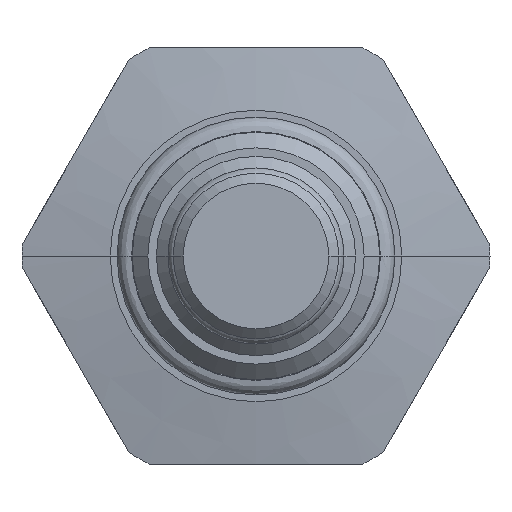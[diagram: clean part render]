
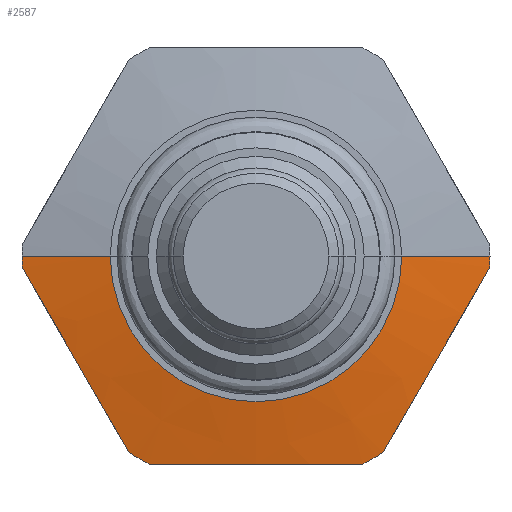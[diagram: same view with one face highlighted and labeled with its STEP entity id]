
A CAD part, front view. The second image highlights one B-rep face of the part: STEP entity #2587.
In plain terms, the highlighted conical face has half-angle 80 degrees and reference radius 14.478 mm.
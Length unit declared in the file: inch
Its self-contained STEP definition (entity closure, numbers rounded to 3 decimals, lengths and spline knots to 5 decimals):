
#387=CARTESIAN_POINT('',(0.32075,0.07663,-0.625));
#388=CARTESIAN_POINT('',(0.30718,0.07554,-0.625));
#389=CARTESIAN_POINT('',(0.28016,0.07347,-0.625));
#390=CARTESIAN_POINT('',(0.2401,0.07075,-0.625));
#391=CARTESIAN_POINT('',(0.20022,0.06842,-0.625));
#392=CARTESIAN_POINT('',(0.16037,0.06647,-0.625));
#393=CARTESIAN_POINT('',(0.12045,0.06492,-0.625));
#394=CARTESIAN_POINT('',(0.08041,0.0638,-0.625));
#395=CARTESIAN_POINT('',(0.04024,0.06312,-0.625));
#396=CARTESIAN_POINT('',(0.,0.06289,-0.625));
#397=CARTESIAN_POINT('',(-0.04024,0.06312,-0.625));
#398=CARTESIAN_POINT('',(-0.08041,0.0638,-0.625));
#399=CARTESIAN_POINT('',(-0.12045,0.06492,-0.625));
#400=CARTESIAN_POINT('',(-0.16037,0.06647,-0.625));
#401=CARTESIAN_POINT('',(-0.20022,0.06842,-0.625));
#402=CARTESIAN_POINT('',(-0.2401,0.07075,-0.625));
#403=CARTESIAN_POINT('',(-0.28016,0.07347,-0.625));
#404=CARTESIAN_POINT('',(-0.30718,0.07554,-0.625));
#405=CARTESIAN_POINT('',(-0.32075,0.07663,-0.625));
#425=CARTESIAN_POINT('',(0.,0.07663,0.));
#426=DIRECTION('',(0.,1.,0.));
#427=DIRECTION('',(-0.457,0.,-0.89));
#428=AXIS2_PLACEMENT_3D('',#425,#426,#427);
#430=CARTESIAN_POINT('',(0.,0.07663,0.));
#431=DIRECTION('',(0.,1.,0.));
#432=DIRECTION('',(-0.999,0.,-0.049));
#433=AXIS2_PLACEMENT_3D('',#430,#431,#432);
#435=CARTESIAN_POINT('',(0.,0.07663,0.));
#436=DIRECTION('',(0.,1.,0.));
#437=DIRECTION('',(1.,0.,0.));
#438=AXIS2_PLACEMENT_3D('',#435,#436,#437);
#440=CARTESIAN_POINT('',(0.,0.07663,0.));
#441=DIRECTION('',(0.,1.,0.));
#442=DIRECTION('',(0.542,0.,-0.84));
#443=AXIS2_PLACEMENT_3D('',#440,#441,#442);
#467=CARTESIAN_POINT('',(-0.38089,0.07663,
-0.59028));
#468=CARTESIAN_POINT('',(-0.38768,0.07554,
-0.57852));
#469=CARTESIAN_POINT('',(-0.40119,0.07347,
-0.55512));
#470=CARTESIAN_POINT('',(-0.42122,0.07075,
-0.52043));
#471=CARTESIAN_POINT('',(-0.44116,0.06842,
-0.4859));
#472=CARTESIAN_POINT('',(-0.46108,0.06647,
-0.45139));
#473=CARTESIAN_POINT('',(-0.48104,0.06492,
-0.41681));
#474=CARTESIAN_POINT('',(-0.50106,0.0638,
-0.38213));
#475=CARTESIAN_POINT('',(-0.52115,0.06312,
-0.34735));
#476=CARTESIAN_POINT('',(-0.54127,0.06289,
-0.3125));
#477=CARTESIAN_POINT('',(-0.56139,0.06312,
-0.27765));
#478=CARTESIAN_POINT('',(-0.58147,0.0638,
-0.24287));
#479=CARTESIAN_POINT('',(-0.60149,0.06492,
-0.20819));
#480=CARTESIAN_POINT('',(-0.62145,0.06647,
-0.17361));
#481=CARTESIAN_POINT('',(-0.64138,0.06842,
-0.1391));
#482=CARTESIAN_POINT('',(-0.66132,0.07075,
-0.10457));
#483=CARTESIAN_POINT('',(-0.68134,0.07347,
-0.06988));
#484=CARTESIAN_POINT('',(-0.69485,0.07554,
-0.04648));
#485=CARTESIAN_POINT('',(-0.70164,0.07663,
-0.03472));
#579=DIRECTION('',(-0.985,-0.174,0.));
#580=VECTOR('',#579,0.26909);
#581=CARTESIAN_POINT('',(0.7025,0.07663,0.));
#582=LINE('',#581,#580);
#583=DIRECTION('',(0.985,-0.174,0.));
#584=VECTOR('',#583,0.26909);
#585=CARTESIAN_POINT('',(-0.7025,0.07663,0.));
#586=LINE('',#585,#584);
#713=CARTESIAN_POINT('',(0.70164,0.07663,
-0.03472));
#714=CARTESIAN_POINT('',(0.69485,0.07554,
-0.04648));
#715=CARTESIAN_POINT('',(0.68134,0.07347,
-0.06988));
#716=CARTESIAN_POINT('',(0.66132,0.07075,
-0.10457));
#717=CARTESIAN_POINT('',(0.64138,0.06842,
-0.1391));
#718=CARTESIAN_POINT('',(0.62145,0.06647,
-0.17361));
#719=CARTESIAN_POINT('',(0.60149,0.06492,
-0.20819));
#720=CARTESIAN_POINT('',(0.58147,0.0638,
-0.24287));
#721=CARTESIAN_POINT('',(0.56139,0.06312,
-0.27765));
#722=CARTESIAN_POINT('',(0.54127,0.06289,
-0.3125));
#723=CARTESIAN_POINT('',(0.52115,0.06312,
-0.34735));
#724=CARTESIAN_POINT('',(0.50106,0.0638,
-0.38213));
#725=CARTESIAN_POINT('',(0.48104,0.06492,
-0.41681));
#726=CARTESIAN_POINT('',(0.46108,0.06647,
-0.45139));
#727=CARTESIAN_POINT('',(0.44116,0.06842,
-0.4859));
#728=CARTESIAN_POINT('',(0.42122,0.07075,
-0.52043));
#729=CARTESIAN_POINT('',(0.40119,0.07347,
-0.55512));
#730=CARTESIAN_POINT('',(0.38768,0.07554,
-0.57852));
#731=CARTESIAN_POINT('',(0.38089,0.07663,
-0.59028));
#756=CARTESIAN_POINT('',(0.,0.0299,0.));
#757=DIRECTION('',(0.,1.,0.));
#758=DIRECTION('',(1.,0.,0.));
#759=AXIS2_PLACEMENT_3D('',#756,#757,#758);
#1677=CARTESIAN_POINT('',(0.4375,0.0299,0.));
#1679=VERTEX_POINT('',#1677);
#1681=CARTESIAN_POINT('',(-0.4375,0.0299,0.));
#1683=VERTEX_POINT('',#1681);
#1733=CARTESIAN_POINT('',(-0.32075,0.07663,-0.625));
#1734=CARTESIAN_POINT('',(-0.38089,0.07663,
-0.59028));
#1735=VERTEX_POINT('',#1733);
#1736=VERTEX_POINT('',#1734);
#1737=CARTESIAN_POINT('',(-0.70164,0.07663,
-0.03472));
#1738=CARTESIAN_POINT('',(-0.7025,0.07663,0.));
#1739=VERTEX_POINT('',#1737);
#1740=VERTEX_POINT('',#1738);
#1741=CARTESIAN_POINT('',(0.7025,0.07663,0.));
#1742=CARTESIAN_POINT('',(0.70164,0.07663,
-0.03472));
#1743=VERTEX_POINT('',#1741);
#1744=VERTEX_POINT('',#1742);
#1745=CARTESIAN_POINT('',(0.38089,0.07663,
-0.59028));
#1746=CARTESIAN_POINT('',(0.32075,0.07663,-0.625));
#1747=VERTEX_POINT('',#1745);
#1748=VERTEX_POINT('',#1746);
#2562=CARTESIAN_POINT('',(0.,0.05327,0.));
#2563=DIRECTION('',(0.,1.,0.));
#2564=DIRECTION('',(1.,0.,0.));
#2565=AXIS2_PLACEMENT_3D('',#2562,#2563,#2564);
#2566=CONICAL_SURFACE('',#2565,0.57,80.);
#2567=ORIENTED_EDGE('',*,*,#2552,.T.);
#2569=ORIENTED_EDGE('',*,*,#2568,.T.);
#2571=ORIENTED_EDGE('',*,*,#2570,.T.);
#2573=ORIENTED_EDGE('',*,*,#2572,.T.);
#2575=ORIENTED_EDGE('',*,*,#2574,.F.);
#2577=ORIENTED_EDGE('',*,*,#2576,.F.);
#2579=ORIENTED_EDGE('',*,*,#2578,.T.);
#2581=ORIENTED_EDGE('',*,*,#2580,.T.);
#2583=ORIENTED_EDGE('',*,*,#2582,.T.);
#2584=ORIENTED_EDGE('',*,*,#2535,.T.);
#2585=EDGE_LOOP('',(#2567,#2569,#2571,#2573,#2575,#2577,#2579,#2581,#2583,
#2584));
#2586=FACE_OUTER_BOUND('',#2585,.F.);
#2587=ADVANCED_FACE('',(#2586),#2566,.T.);
#406=B_SPLINE_CURVE_WITH_KNOTS('',3,(#387,#388,#389,#390,#391,#392,#393,#394,
#395,#396,#397,#398,#399,#400,#401,#402,#403,#404,#405),.UNSPECIFIED.,.F.,.F.,
(4,1,1,1,1,1,1,1,1,1,1,1,1,1,1,1,4),(0.,0.0625,0.125,0.1875,0.25,
0.3125,0.375,0.4375,0.5,0.5625,0.625,0.6875,0.75,0.8125,
0.875,0.9375,1.),.UNSPECIFIED.);
#429=CIRCLE('',#428,0.7025);
#434=CIRCLE('',#433,0.7025);
#439=CIRCLE('',#438,0.7025);
#444=CIRCLE('',#443,0.7025);
#486=B_SPLINE_CURVE_WITH_KNOTS('',3,(#467,#468,#469,#470,#471,#472,#473,#474,
#475,#476,#477,#478,#479,#480,#481,#482,#483,#484,#485),.UNSPECIFIED.,.F.,.F.,
(4,1,1,1,1,1,1,1,1,1,1,1,1,1,1,1,4),(0.,0.0625,0.125,0.1875,0.25,
0.3125,0.375,0.4375,0.5,0.5625,0.625,0.6875,0.75,0.8125,
0.875,0.9375,1.),.UNSPECIFIED.);
#732=B_SPLINE_CURVE_WITH_KNOTS('',3,(#713,#714,#715,#716,#717,#718,#719,#720,
#721,#722,#723,#724,#725,#726,#727,#728,#729,#730,#731),.UNSPECIFIED.,.F.,.F.,
(4,1,1,1,1,1,1,1,1,1,1,1,1,1,1,1,4),(0.,0.0625,0.125,0.1875,0.25,
0.3125,0.375,0.4375,0.5,0.5625,0.625,0.6875,0.75,0.8125,
0.875,0.9375,1.),.UNSPECIFIED.);
#760=CIRCLE('',#759,0.4375);
#2535=EDGE_CURVE('',#1748,#1735,#406,.T.);
#2552=EDGE_CURVE('',#1735,#1736,#429,.T.);
#2568=EDGE_CURVE('',#1736,#1739,#486,.T.);
#2570=EDGE_CURVE('',#1739,#1740,#434,.T.);
#2572=EDGE_CURVE('',#1740,#1683,#586,.T.);
#2574=EDGE_CURVE('',#1679,#1683,#760,.T.);
#2576=EDGE_CURVE('',#1743,#1679,#582,.T.);
#2578=EDGE_CURVE('',#1743,#1744,#439,.T.);
#2580=EDGE_CURVE('',#1744,#1747,#732,.T.);
#2582=EDGE_CURVE('',#1747,#1748,#444,.T.);
